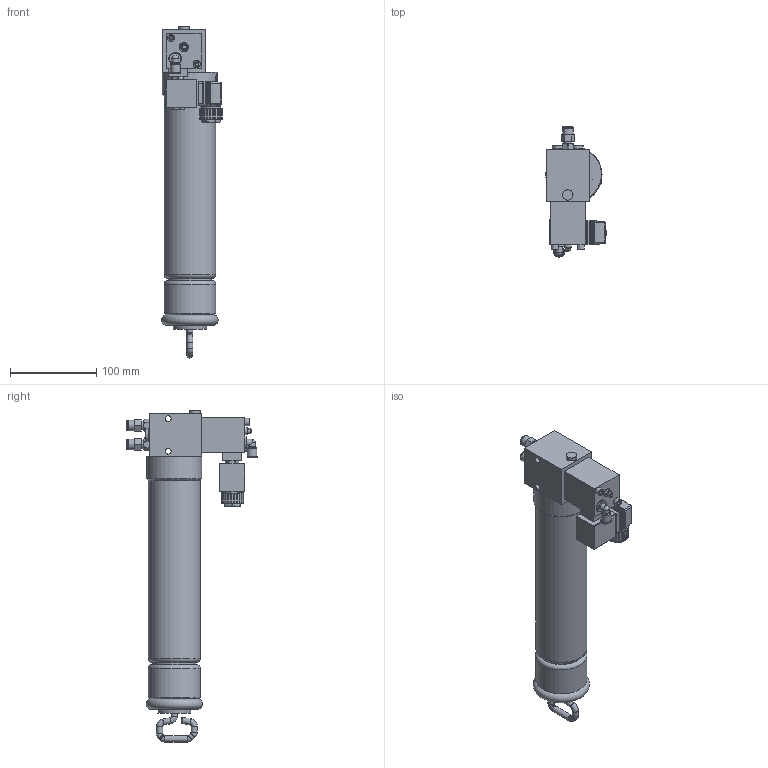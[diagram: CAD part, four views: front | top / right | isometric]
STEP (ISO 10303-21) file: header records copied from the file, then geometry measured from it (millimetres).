
FILE_DESCRIPTION (( 'STEP AP214' ), '1' );
FILE_NAME ('1470_0206_01sf_XXX.STEP', '2026-04-29T09:16:06', ( '' ), ( '' ), 'SwSTEP 2.0', 'SolidWorks 2022', '' );
FILE_SCHEMA (( 'AUTOMOTIVE_DESIGN' ));
Length unit declared in the file: millimetre
Products named in the file (17): DPF_10_1; Verschlussschraube_1_8; DPF_Pumpenkoerper_2_fach; DPF_Luftverschraubung; 1470_0206_01sf_XXX; DPF_Sensor_Anschluss; DPF_Pumpenkoerper_2fach_4fach; 04E33_1801_MAGNETSPULE_FORM-A; TRO_Magnetventil_Stecker; Verschlussstopfen_1_8; DPF_Kartuschenbehaelter; DPF_Funktionskontrolle_Stecker; Cu_Ring_1_8; DPF_Pumpenausgangsverschraubung; ZYLSCHRAUBE_M5X10; DPF_Kartusche; DPF_Kartuschenhebel
Assembly tree (21 placements, depth 3):
  1470_0206_01sf_XXX
    DPF_Kartuschenbehaelter
      DPF_Kartuschenhebel
      DPF_Kartusche
      DPF_Sensor_Anschluss
      Verschlussstopfen_1_8
    DPF_Pumpenkoerper_2fach_4fach
      DPF_Pumpenkoerper_2_fach
      DPF_Pumpenausgangsverschraubung  x2
      DPF_Luftverschraubung
      04E33_1801_MAGNETSPULE_FORM-A
      TRO_Magnetventil_Stecker
      DPF_10_1  x2
      DPF_Funktionskontrolle_Stecker
      ZYLSCHRAUBE_M5X10  x2
    Cu_Ring_1_8  x2
    Verschlussschraube_1_8  x2
Bounding box: 70.43 x 151.1 x 385.59 mm (x, y, z)
Volume: 1149020.2 mm3; surface area: 125966.6 mm2
Topology: 22 solids, 22 shells, 1147 faces, 2925 edges, 1889 vertices
Faces by surface type: plane 635, cylinder 247, bspline 195, cone 53, torus 14, sphere 3
Full cylindrical faces by diameter (mm): 0.7 x3, 1 x3, 1.5 x3, 2.5 x1, 4 x1, 5 x6, 5.75 x1, 5.774 x2, 6 x3, 6.2 x1, 6.25 x1, 6.5 x2, 6.6 x2, 6.75 x1, 7 x10, 8 x3, 8.3 x2, 8.4 x2, 8.5 x2, 9 x4, 9.5 x1, 9.7 x1, 9.728 x2, 10 x8, 10.3 x1, 10.5 x2, 11 x2, 11.2 x1, 12 x5, 14 x4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
Entity records: 41867 total; most frequent: CARTESIAN_POINT 16776, ORIENTED_EDGE 4876, DIRECTION 4124, EDGE_CURVE 2438, VERTEX_POINT 1654, VECTOR 1478, LINE 1478, AXIS2_PLACEMENT_3D 1323
